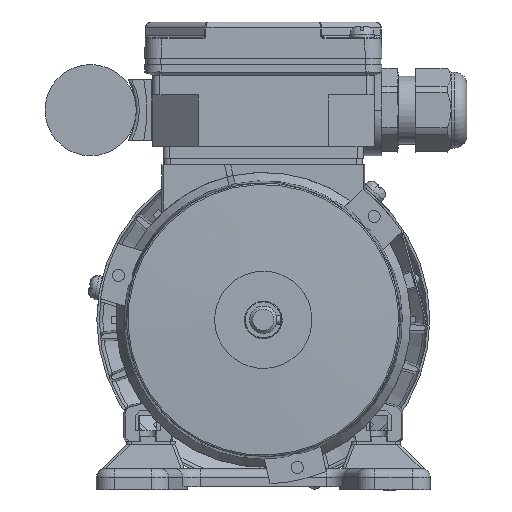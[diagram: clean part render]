
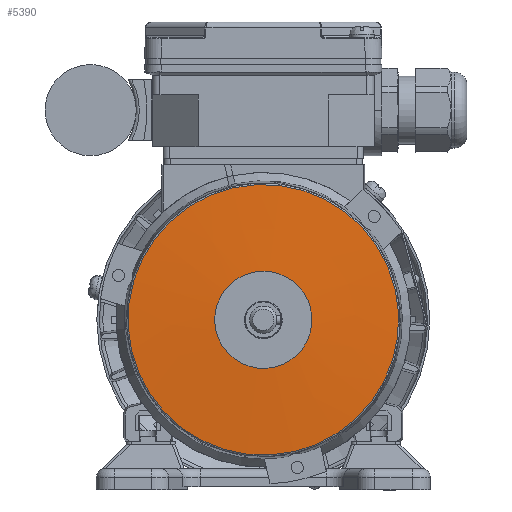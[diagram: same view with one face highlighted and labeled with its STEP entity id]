
A CAD part, left-side view. The second image highlights one B-rep face of the part: STEP entity #5390.
In plain terms, the highlighted conical face has half-angle 87.039 degrees and reference radius 16 mm.
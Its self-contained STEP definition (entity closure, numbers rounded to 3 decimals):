
#5390 = ADVANCED_FACE( '', ( #10732, #10733 ), #10734, .T. );
#10732 = FACE_OUTER_BOUND( '', #20706, .T. );
#10733 = FACE_BOUND( '', #20707, .T. );
#10734 = CONICAL_SURFACE( '', #20708, 16., 1.519 );
#20706 = EDGE_LOOP( '', ( #35274 ) );
#20707 = EDGE_LOOP( '', ( #35275 ) );
#20708 = AXIS2_PLACEMENT_3D( '', #35276, #35277, #35278 );
#35274 = ORIENTED_EDGE( '', *, *, #40716, .T. );
#35275 = ORIENTED_EDGE( '', *, *, #37460, .F. );
#35276 = CARTESIAN_POINT( '', ( 0., 1., 0. ) );
#35277 = DIRECTION( '', ( 0., 1., 0. ) );
#35278 = DIRECTION( '', ( 0., 0., 1. ) );
#37460 = EDGE_CURVE( '', #44361, #44361, #44362, .T. );
#40716 = EDGE_CURVE( '', #49742, #49742, #49743, .T. );
#44361 = VERTEX_POINT( '', #53574 );
#44362 = CIRCLE( '', #53575, 16. );
#49742 = VERTEX_POINT( '', #64660 );
#49743 = CIRCLE( '', #64661, 44.539 );
#53574 = CARTESIAN_POINT( '', ( 0., 1., -16. ) );
#53575 = AXIS2_PLACEMENT_3D( '', #71619, #71620, #71621 );
#64660 = CARTESIAN_POINT( '', ( 0., 2.476, -44.539 ) );
#64661 = AXIS2_PLACEMENT_3D( '', #75637, #75638, #75639 );
#71619 = CARTESIAN_POINT( '', ( 0., 1., 0. ) );
#71620 = DIRECTION( '', ( 0., -1., 0. ) );
#71621 = DIRECTION( '', ( 0., 0., -1. ) );
#75637 = CARTESIAN_POINT( '', ( 0., 2.476, 0. ) );
#75638 = DIRECTION( '', ( 0., -1., 0. ) );
#75639 = DIRECTION( '', ( 0., 0., -1. ) );
